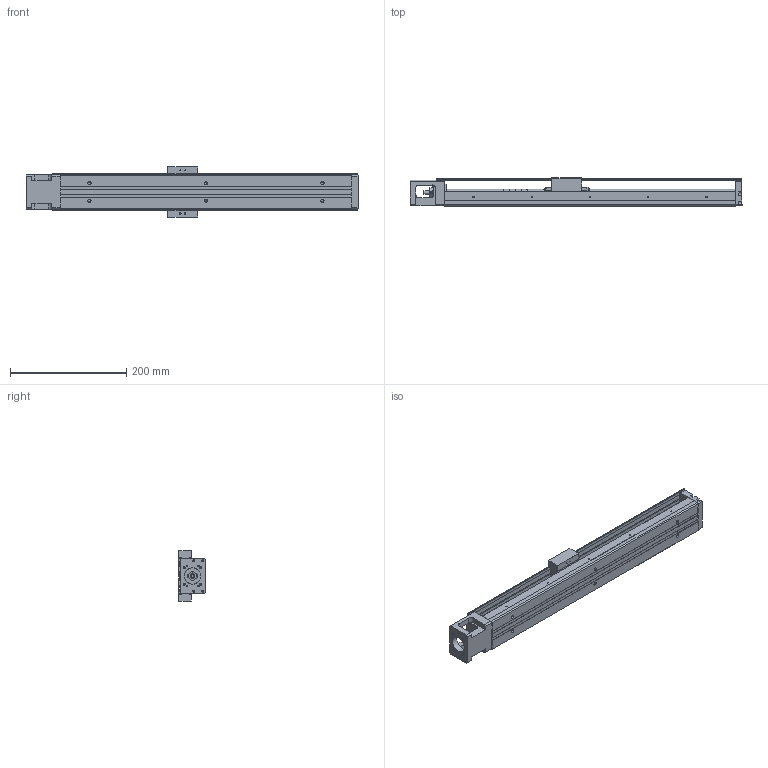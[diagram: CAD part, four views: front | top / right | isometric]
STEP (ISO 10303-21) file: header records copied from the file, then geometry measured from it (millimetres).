
FILE_DESCRIPTION(/* description */ (''),/* implementation_level */ '2;1');
FILE_NAME(/* name */ 'KP33N-500C.stp',/* time_stamp */ '2019-02-25T15:05:04+08:00',/* author */ (''),/* organization */ (''),/* preprocessor_version */ 'ST-DEVELOPER v11',/* originating_system */ 'SIEMENS UGS NX 6.0',/* authorisation */ '');
FILE_SCHEMA (('CONFIG_CONTROL_DESIGN'));
Length unit declared in the file: millimetre
Products named in the file (1): darrFF5Egxat
Bounding box: 570 x 47.95 x 86 mm (x, y, z)
Volume: 732668.1 mm3; surface area: 257937.8 mm2
Topology: 7 solids, 16 shells, 729 faces, 1835 edges, 1214 vertices
Faces by surface type: plane 436, cylinder 206, bspline 31, cone 24, extrusion 21, torus 9, revolution 2
Full cylindrical faces by diameter (mm): 1.6 x6, 1.65 x4, 2.15 x5, 2.42 x4, 2.45 x8, 2.5 x18, 3 x3, 3.2 x4, 3.3 x4, 3.4 x3, 3.5 x10, 3.969 x1, 4 x6, 4.001 x1, 4.135 x4, 4.2 x4, 5.5 x6, 6 x5, 7.6 x1, 8 x5, 9.5 x6, 10.72 x3, 11.8 x2, 12 x6, 12.8 x1, 13 x2, 14 x1, 17.38 x3, 21.5 x1, 22 x2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
Entity records: 33117 total; most frequent: CARTESIAN_POINT 16569, DIRECTION 3304, ORIENTED_EDGE 3178, EDGE_CURVE 1589, AXIS2_PLACEMENT_3D 1164, VERTEX_POINT 1133, EDGE_LOOP 1036, VECTOR 974
